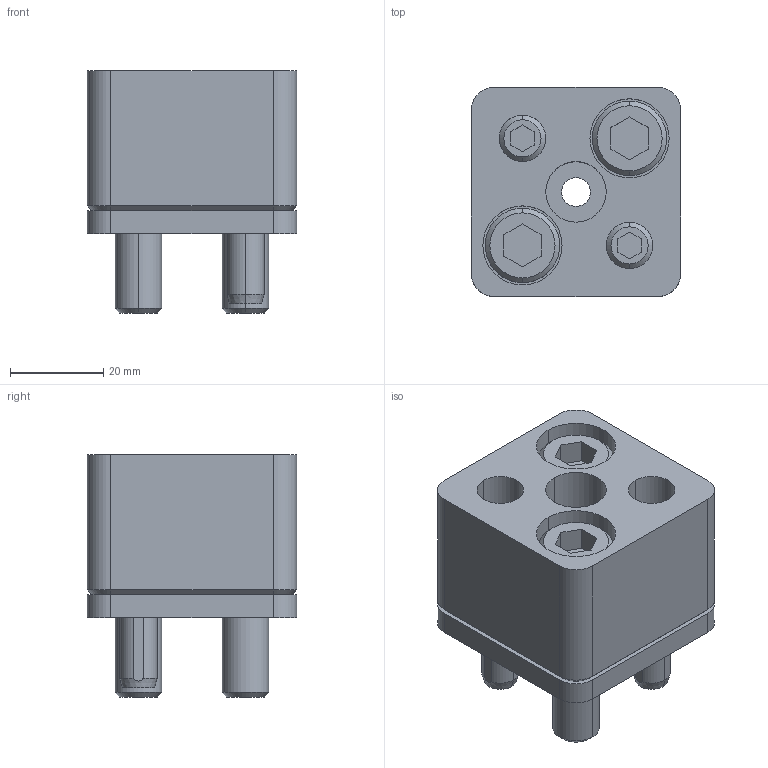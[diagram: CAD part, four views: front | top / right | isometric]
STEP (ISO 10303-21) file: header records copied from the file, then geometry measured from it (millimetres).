
FILE_DESCRIPTION(/* description */ (''),/* implementation_level */ '2;1');
FILE_NAME(/* name */ '3d_hsr-ap13_02778_r00.stp',/* time_stamp */ '2011-01-10T14:14:35+09:00',/* author */ ('MISUMI'),/* organization */ (''),/* preprocessor_version */ 'ST-DEVELOPER v11',/* originating_system */ 'UGS - NX 5.0',/* authorisation */ '');
FILE_SCHEMA (('CONFIG_CONTROL_DESIGN'));
Length unit declared in the file: millimetre
Products named in the file (1): 3d_hsr-ap13_02778_r00
Bounding box: 45 x 45 x 52 mm (x, y, z)
Volume: 64052.8 mm3; surface area: 25897.4 mm2
Topology: 8 solids, 8 shells, 163 faces, 362 edges, 230 vertices
Faces by surface type: plane 69, cylinder 64, cone 30
Entity records: 4678 total; most frequent: DIRECTION 840, CARTESIAN_POINT 816, ORIENTED_EDGE 724, EDGE_CURVE 362, AXIS2_PLACEMENT_3D 322, VERTEX_POINT 230, EDGE_LOOP 198, LINE 196
